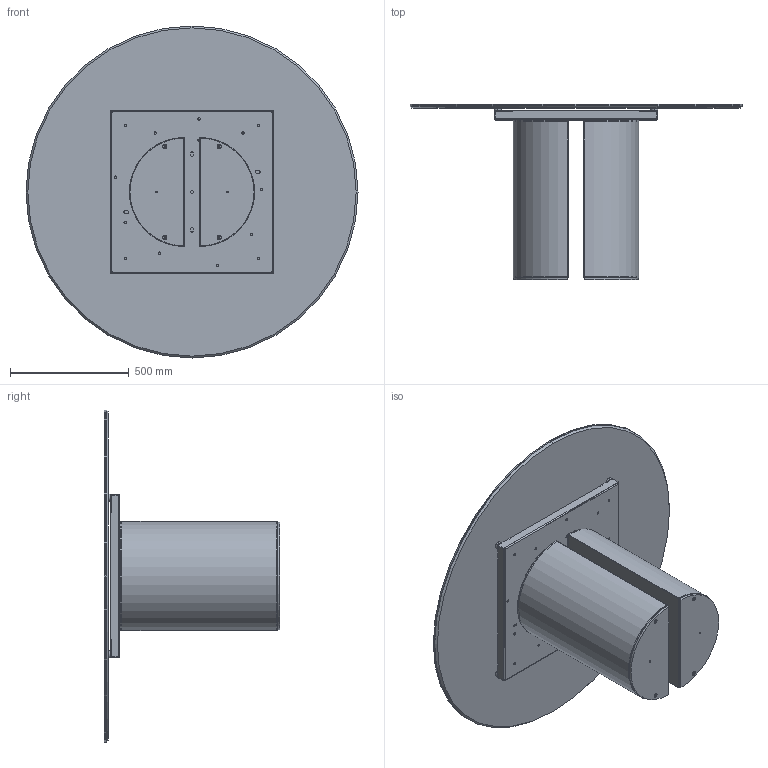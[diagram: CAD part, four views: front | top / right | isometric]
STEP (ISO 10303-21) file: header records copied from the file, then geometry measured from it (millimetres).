
FILE_DESCRIPTION (( 'STEP AP203' ), '1' );
FILE_NAME ('DR06C.STEP', '2024-08-06T12:59:10', ( '' ), ( '' ), 'SwSTEP 2.0', 'SolidWorks 2022', '' );
FILE_SCHEMA (( 'CONFIG_CONTROL_DESIGN' ));
Length unit declared in the file: millimetre
Products named in the file (12): 434070-00-PIEDINO TPV GOMMA NERO D. 30x8max18_filo estetico; TTAV0801-02-TELAIO UNIVERSALE TONDO; M8xXXmm_hex_M8X60mm; DR06C; TTAV0801 TELAIO UNIVERSALE TONDO-PIASTRINA; M8xXXmm_hex_M8X20mm; K1XCMXX-00-Piani Rotondi in ceramica_D.1400; PLA000000BAS-00-PLAI BASE GREZZA; TTAV0801-02-TELAIO UNIVERSALE TONDO-VASSOIO; COLLO TELAIO UNIVERSALE TTAV0801 CON FERRAMENTA_MTG TOP CRISTALLO VERNICIATO-CERAMICA; PLA000000ZOC-01-PLAI ZOCCOLO DELLA BASE; Assieme Basamento PLAI_Basamento per tavoli
Assembly tree (18 placements, depth 4):
  DR06C
    Assieme Basamento PLAI_Basamento per tavoli  x2
      PLA000000BAS-00-PLAI BASE GREZZA
      PLA000000ZOC-01-PLAI ZOCCOLO DELLA BASE
      M8xXXmm_hex_M8X60mm
      M8xXXmm_hex_M8X20mm
    COLLO TELAIO UNIVERSALE TTAV0801 CON FERRAMENTA_MTG TOP CRISTALLO VERNICIATO-CERAMICA
      TTAV0801-02-TELAIO UNIVERSALE TONDO
        TTAV0801-02-TELAIO UNIVERSALE TONDO-VASSOIO
        TTAV0801 TELAIO UNIVERSALE TONDO-PIASTRINA  x4
      434070-00-PIEDINO TPV GOMMA NERO D. 30x8max18_filo estetico  x4
    K1XCMXX-00-Piani Rotondi in ceramica_D.1400
Bounding box: 1400 x 740 x 1400 mm (x, y, z)
Volume: 32355320.6 mm3; surface area: 11259815.7 mm2
Topology: 29 solids, 29 shells, 712 faces, 1788 edges, 1130 vertices
Faces by surface type: plane 360, cylinder 290, cone 38, torus 24
Entity records: 14991 total; most frequent: DIRECTION 2455, CARTESIAN_POINT 2310, ORIENTED_EDGE 2258, EDGE_CURVE 1129, AXIS2_PLACEMENT_3D 865, LINE 725, VECTOR 725, VERTEX_POINT 720
